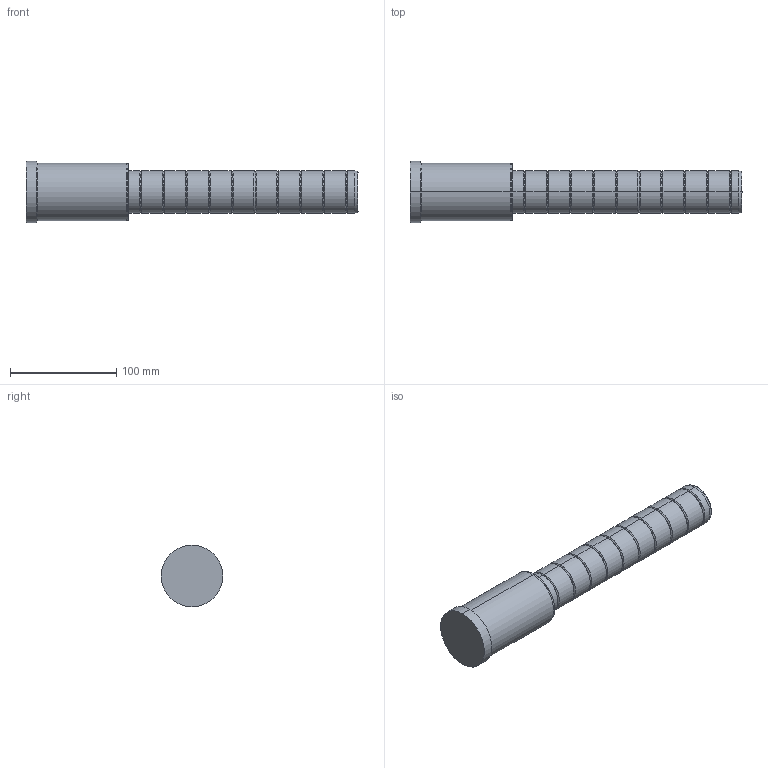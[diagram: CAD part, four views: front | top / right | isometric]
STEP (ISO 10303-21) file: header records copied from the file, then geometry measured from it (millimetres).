
FILE_DESCRIPTION( ( 'STEP AP203' ), '1' );
FILE_NAME( 'C:/Projects/D02 - 40x96x216.step', '2003-01-04T14:10:03', ( ' ' ), ( ' ' ), 'XStep 1.0', ' ', ' ' );
FILE_SCHEMA( ( 'CONFIG_CONTROL_DESIGN' ) );
Length unit declared in the file: metre
Products named in the file (1): 1
Bounding box: 312 x 58 x 58 mm (x, y, z)
Volume: 492844.9 mm3; surface area: 49958.8 mm2
Topology: 1 solids, 1 shells, 84 faces, 166 edges, 88 vertices
Faces by surface type: bspline 50, revolution 34
Entity records: 2711 total; most frequent: CARTESIAN_POINT 1217, ORIENTED_EDGE 332, DIRECTION 246, EDGE_CURVE 166, AXIS2_PLACEMENT_3D 89, EDGE_LOOP 88, VERTEX_POINT 88, CIRCLE 88
